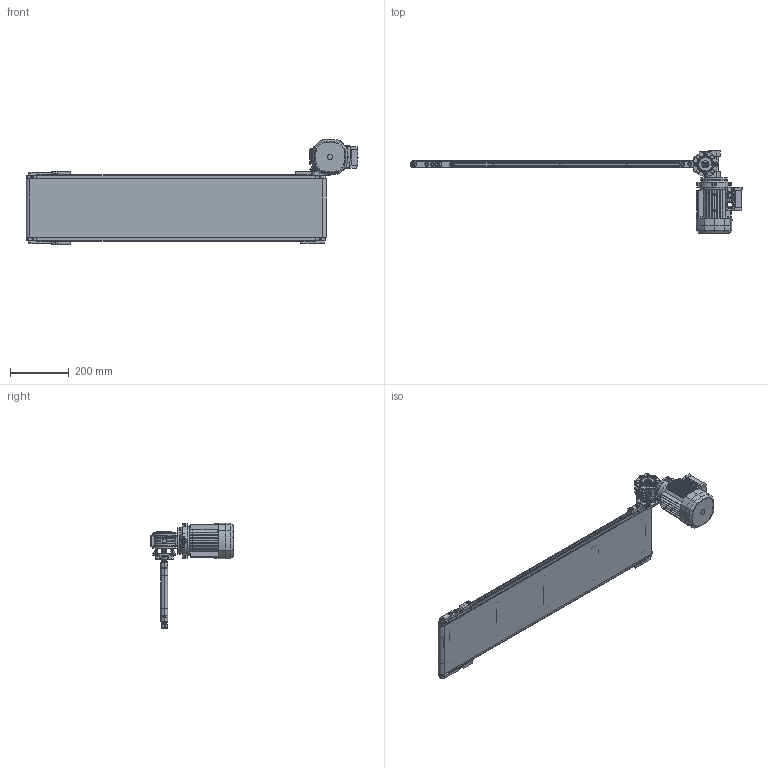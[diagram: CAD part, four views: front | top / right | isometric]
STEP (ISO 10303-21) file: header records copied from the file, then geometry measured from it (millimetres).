
FILE_DESCRIPTION (( 'STEP AP203' ), '1' );
FILE_NAME ('NASTRO_RETTILINEO_TAPPETO.step', '2026-04-20T17:22:54', ( 'Utente Windows' ), ( '' ), 'SwSTEP 2.0', 'SolidWorks 2024', '' );
FILE_SCHEMA (( 'CONFIG_CONTROL_DESIGN' ));
Length unit declared in the file: millimetre
Products named in the file (28): BLOCCO_TRAINO_20_STANDARD; 084.800.007; 084.800.001-1; 084.802.008; 08UNI7435; 084.800.002; 084.800.008; 084.302.000 DADI ALUSIC 13x13-1_084.302.007; VITE_RONDELLA_M8X20; TPU12-9; 084.800.012; RULLO_20; BLOCCO_TRAINO_20_STANDARD_30; VITI TSEI UNI 5933_M5x12 UNI 5933; BLOCCO_RINVIO_20_STANDARD; TELAIO_20_STANDARD_Default<A macchina>; 084.302.000 DADI ALUSIC 13x13-1_084.302.004; RULLO_20_TRAINO_30_DX; 084.303.001; LAMIERA_STANDARD; VITE_DADO_M5X12; CH03F_DX; TAPPETO_STANDARD; BLOCCO_PERNO_20_RINVIO; NASTRO_RETTILINEO_TAPPETO; 084.802.016_084.802.016; 084.301.000 VITI ALUSIC_084.301.002; 084.301.000 VITI ALUSIC_084.301.003
Assembly tree (58 placements, depth 3):
  NASTRO_RETTILINEO_TAPPETO
    TAPPETO_STANDARD
    TELAIO_20_STANDARD_Default<A macchina>
    LAMIERA_STANDARD
    RULLO_20_TRAINO_30_DX
    BLOCCO_TRAINO_20_STANDARD_30
      084.800.001-1
      084.802.016_084.802.016
      084.301.000 VITI ALUSIC_084.301.003  x2
      084.302.000 DADI ALUSIC 13x13-1_084.302.004  x2
    BLOCCO_PERNO_20_RINVIO  x3
      084.800.012
      084.800.008
      084.800.007
      08UNI7435
    BLOCCO_TRAINO_20_STANDARD
      084.800.002
      084.301.000 VITI ALUSIC_084.301.002  x2
      084.302.000 DADI ALUSIC 13x13-1_084.302.004  x2
      TPU12-9
    RULLO_20
    BLOCCO_RINVIO_20_STANDARD  x2
      084.802.008
      084.301.000 VITI ALUSIC_084.301.002
      084.302.000 DADI ALUSIC 13x13-1_084.302.004
      084.800.002
      TPU12-9
    VITE_RONDELLA_M8X20  x7
      084.303.001
      084.301.000 VITI ALUSIC_084.301.003
    VITE_DADO_M5X12  x8
      084.302.000 DADI ALUSIC 13x13-1_084.302.007
      VITI TSEI UNI 5933_M5x12 UNI 5933
    CH03F_DX
Bounding box: 1131.98 x 280.8 x 360.89 mm (x, y, z)
Volume: 3675151.6 mm3; surface area: 2328123.6 mm2
Topology: 106 solids, 107 shells, 3370 faces, 8496 edges, 5420 vertices
Faces by surface type: plane 1378, cylinder 1096, cone 310, torus 296, bspline 246, sphere 44
Entity records: 89559 total; most frequent: CARTESIAN_POINT 35013, ORIENTED_EDGE 11272, DIRECTION 9829, EDGE_CURVE 5636, AXIS2_PLACEMENT_3D 3841, VERTEX_POINT 3609, EDGE_LOOP 2363, FACE_OUTER_BOUND 2151
